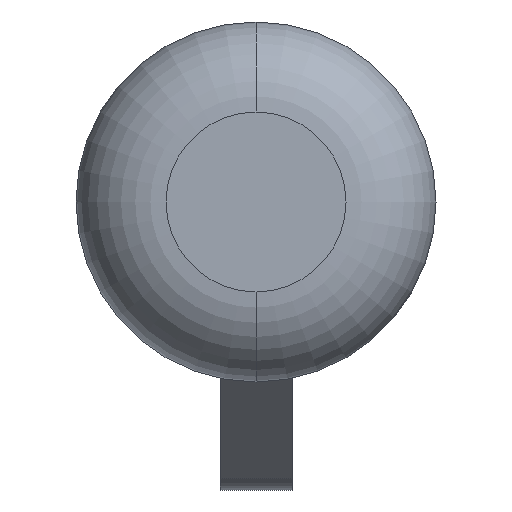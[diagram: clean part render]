
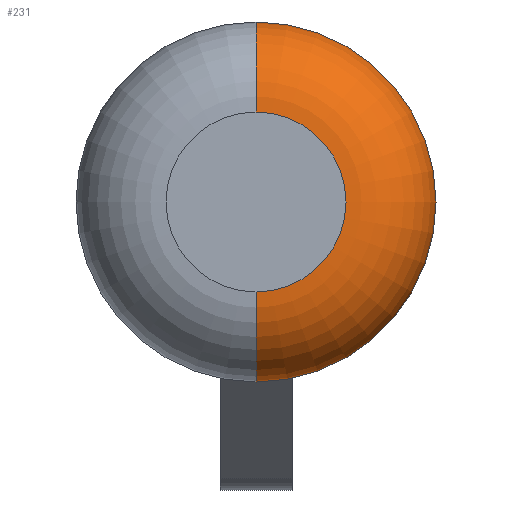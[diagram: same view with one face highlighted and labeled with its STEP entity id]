
A CAD part, front view. The second image highlights one B-rep face of the part: STEP entity #231.
In plain terms, the highlighted toroidal (fillet/blend) face has major radius 10 mm and minor radius 10 mm.
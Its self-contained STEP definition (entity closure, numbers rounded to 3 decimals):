
#6 = DIRECTION ( 'NONE',  ( 0., 0., 1. ) ) ;
#11 = CARTESIAN_POINT ( 'NONE',  ( 0., -40., 10. ) ) ;
#12 = DIRECTION ( 'NONE',  ( -1., 0., 0. ) ) ;
#16 = VERTEX_POINT ( 'NONE', #72 ) ;
#21 = DIRECTION ( 'NONE',  ( 0., 0., 1. ) ) ;
#72 = CARTESIAN_POINT ( 'NONE',  ( 0., -50., -10. ) ) ;
#80 = TOROIDAL_SURFACE ( 'NONE', #469, 10., 10. ) ;
#96 = CARTESIAN_POINT ( 'NONE',  ( 0., -40., 0. ) ) ;
#110 = FACE_OUTER_BOUND ( 'NONE', #259, .T. ) ;
#114 = CARTESIAN_POINT ( 'NONE',  ( 0., -40., 20. ) ) ;
#143 = CARTESIAN_POINT ( 'NONE',  ( 0., -40., -10. ) ) ;
#213 = VERTEX_POINT ( 'NONE', #649 ) ;
#231 = ADVANCED_FACE ( 'NONE', ( #110 ), #80, .T. ) ;
#259 = EDGE_LOOP ( 'NONE', ( #619, #285, #421, #293 ) ) ;
#285 = ORIENTED_EDGE ( 'NONE', *, *, #569, .T. ) ;
#291 = AXIS2_PLACEMENT_3D ( 'NONE', #316, #321, #322 ) ;
#293 = ORIENTED_EDGE ( 'NONE', *, *, #588, .F. ) ;
#299 = AXIS2_PLACEMENT_3D ( 'NONE', #11, #12, #21 ) ;
#301 = AXIS2_PLACEMENT_3D ( 'NONE', #96, #573, #6 ) ;
#316 = CARTESIAN_POINT ( 'NONE',  ( 0., -50., 0. ) ) ;
#321 = DIRECTION ( 'NONE',  ( 0., -1., 0. ) ) ;
#322 = DIRECTION ( 'NONE',  ( 0., 0., 1. ) ) ;
#324 = AXIS2_PLACEMENT_3D ( 'NONE', #143, #690, #699 ) ;
#360 = CARTESIAN_POINT ( 'NONE',  ( 0., -50., 10. ) ) ;
#421 = ORIENTED_EDGE ( 'NONE', *, *, #583, .F. ) ;
#469 = AXIS2_PLACEMENT_3D ( 'NONE', #589, #734, #584 ) ;
#569 = EDGE_CURVE ( 'NONE', #16, #213, #709, .T. ) ;
#573 = DIRECTION ( 'NONE',  ( 0., 1., 0. ) ) ;
#583 = EDGE_CURVE ( 'Edge2', #735, #213, #703, .T. ) ;
#584 = DIRECTION ( 'NONE',  ( 0., 0., 1. ) ) ;
#588 = EDGE_CURVE ( 'NONE', #622, #735, #702, .T. ) ;
#589 = CARTESIAN_POINT ( 'NONE',  ( 0., -40., 0. ) ) ;
#600 = EDGE_CURVE ( 'NONE', #16, #622, #651, .T. ) ;
#619 = ORIENTED_EDGE ( 'NONE', *, *, #600, .F. ) ;
#622 = VERTEX_POINT ( 'NONE', #360 ) ;
#649 = CARTESIAN_POINT ( 'NONE',  ( 0., -40., -20. ) ) ;
#651 = CIRCLE ( 'NONE', #291, 10. ) ;
#690 = DIRECTION ( 'NONE',  ( 1., 0., 0. ) ) ;
#699 = DIRECTION ( 'NONE',  ( 0., 0., -1. ) ) ;
#702 = CIRCLE ( 'NONE', #299, 10. ) ;
#703 = CIRCLE ( 'NONE', #301, 20. ) ;
#709 = CIRCLE ( 'NONE', #324, 10. ) ;
#734 = DIRECTION ( 'NONE',  ( 0., 1., 0. ) ) ;
#735 = VERTEX_POINT ( 'NONE', #114 ) ;
